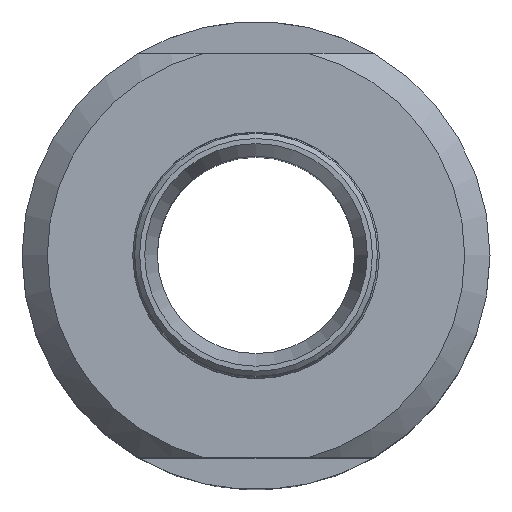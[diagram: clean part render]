
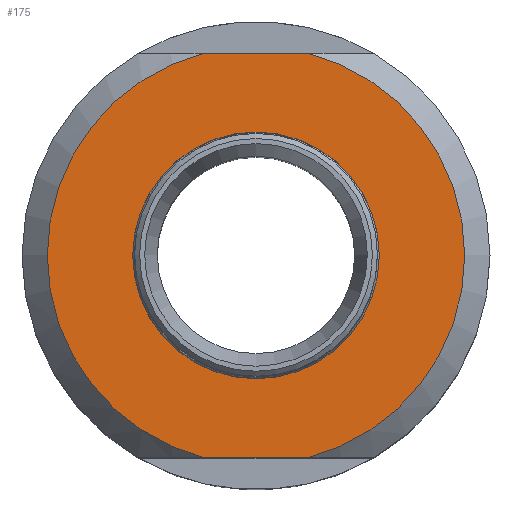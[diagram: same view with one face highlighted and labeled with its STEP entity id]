
A CAD part, top view. The second image highlights one B-rep face of the part: STEP entity #175.
In plain terms, the highlighted planar face has unit normal (0, 0, 1).
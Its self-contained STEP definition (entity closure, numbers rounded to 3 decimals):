
#163 = DIRECTION ( 'NONE',  ( 0., 0., 1. ) ) ;
#175 = ADVANCED_FACE ( 'NONE', ( #2092, #360 ), #1240, .T. ) ;
#181 = CARTESIAN_POINT ( 'NONE',  ( -23.067, -8., 17.5 ) ) ;
#197 = VERTEX_POINT ( 'NONE', #2584 ) ;
#209 = DIRECTION ( 'NONE',  ( -1., 0., 0. ) ) ;
#308 = DIRECTION ( 'NONE',  ( -1., 0., 0. ) ) ;
#328 = AXIS2_PLACEMENT_3D ( 'NONE', #2356, #1468, #209 ) ;
#360 = FACE_OUTER_BOUND ( 'NONE', #1036, .T. ) ;
#490 = ORIENTED_EDGE ( 'NONE', *, *, #796, .F. ) ;
#518 = ORIENTED_EDGE ( 'NONE', *, *, #1164, .F. ) ;
#603 = VERTEX_POINT ( 'NONE', #2097 ) ;
#615 = CARTESIAN_POINT ( 'NONE',  ( 0., 0., 17.5 ) ) ;
#652 = EDGE_CURVE ( 'NONE', #197, #197, #2509, .T. ) ;
#706 = LINE ( 'NONE', #2402, #1874 ) ;
#796 = EDGE_CURVE ( 'NONE', #2545, #603, #2597, .T. ) ;
#816 = DIRECTION ( 'NONE',  ( 1., 0., 0. ) ) ;
#826 = CARTESIAN_POINT ( 'NONE',  ( 2.016, -8., 17.5 ) ) ;
#829 = EDGE_CURVE ( 'NONE', #2545, #1417, #1896, .T. ) ;
#884 = ORIENTED_EDGE ( 'NONE', *, *, #2206, .T. ) ;
#1036 = EDGE_LOOP ( 'NONE', ( #490, #2532, #518, #884 ) ) ;
#1085 = DIRECTION ( 'NONE',  ( 0., 0., -1. ) ) ;
#1109 = AXIS2_PLACEMENT_3D ( 'NONE', #615, #1085, #2555 ) ;
#1117 = AXIS2_PLACEMENT_3D ( 'NONE', #1863, #2299, #308 ) ;
#1164 = EDGE_CURVE ( 'NONE', #1383, #1417, #1784, .T. ) ;
#1240 = PLANE ( 'NONE',  #1960 ) ;
#1383 = VERTEX_POINT ( 'NONE', #2134 ) ;
#1417 = VERTEX_POINT ( 'NONE', #826 ) ;
#1468 = DIRECTION ( 'NONE',  ( 0., 0., -1. ) ) ;
#1483 = DIRECTION ( 'NONE',  ( 1., 0., 0. ) ) ;
#1563 = EDGE_LOOP ( 'NONE', ( #1602 ) ) ;
#1602 = ORIENTED_EDGE ( 'NONE', *, *, #652, .T. ) ;
#1784 = CIRCLE ( 'NONE', #1117, 8.25 ) ;
#1863 = CARTESIAN_POINT ( 'NONE',  ( 0., 0., 17.5 ) ) ;
#1874 = VECTOR ( 'NONE', #2200, 1000. ) ;
#1896 = LINE ( 'NONE', #181, #1911 ) ;
#1903 = CARTESIAN_POINT ( 'NONE',  ( 0., 8.25, 17.5 ) ) ;
#1911 = VECTOR ( 'NONE', #1483, 1000. ) ;
#1960 = AXIS2_PLACEMENT_3D ( 'NONE', #1903, #163, #816 ) ;
#2092 = FACE_BOUND ( 'NONE', #1563, .T. ) ;
#2097 = CARTESIAN_POINT ( 'NONE',  ( -2.016, 8., 17.5 ) ) ;
#2134 = CARTESIAN_POINT ( 'NONE',  ( 2.016, 8., 17.5 ) ) ;
#2154 = CARTESIAN_POINT ( 'NONE',  ( -2.016, -8., 17.5 ) ) ;
#2200 = DIRECTION ( 'NONE',  ( -1., 0., 0. ) ) ;
#2206 = EDGE_CURVE ( 'NONE', #1383, #603, #706, .T. ) ;
#2299 = DIRECTION ( 'NONE',  ( 0., 0., -1. ) ) ;
#2356 = CARTESIAN_POINT ( 'NONE',  ( 0., 0., 17.5 ) ) ;
#2402 = CARTESIAN_POINT ( 'NONE',  ( -23.067, 8., 17.5 ) ) ;
#2509 = CIRCLE ( 'NONE', #1109, 4.875 ) ;
#2532 = ORIENTED_EDGE ( 'NONE', *, *, #829, .T. ) ;
#2545 = VERTEX_POINT ( 'NONE', #2154 ) ;
#2555 = DIRECTION ( 'NONE',  ( -1., 0., 0. ) ) ;
#2584 = CARTESIAN_POINT ( 'NONE',  ( -4.875, 0., 17.5 ) ) ;
#2597 = CIRCLE ( 'NONE', #328, 8.25 ) ;
